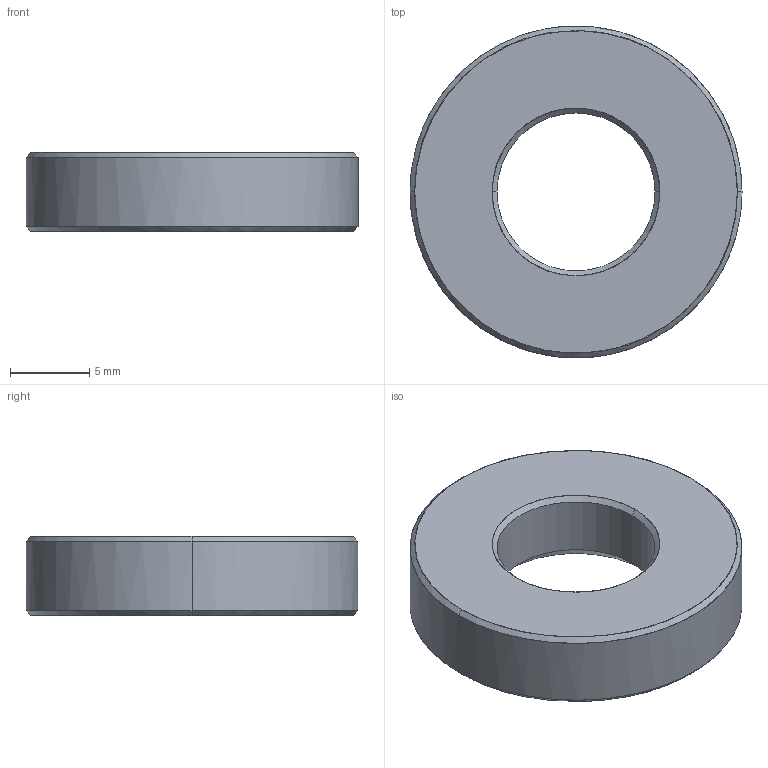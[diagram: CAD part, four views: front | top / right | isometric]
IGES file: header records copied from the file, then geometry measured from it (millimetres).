
Global section: file name: E:\UnigraphicsGraphicData\MISUMI_PRESS-PARTS\IGES\3d_t16_00126_r00.igs; native system: NX V5.0; preprocessor: UGS NX IGES V5.0; author: MISUMI; date: 20110105.163346; units: millimetre
Bounding box: 21 x 20.97 x 5 mm (x, y, z)
Surface area: 978.2 mm2 (no closed solid volume)
Topology: 0 solids, 0 shells, 14 faces, 80 edges, 80 vertices
Faces by surface type: bspline 14
